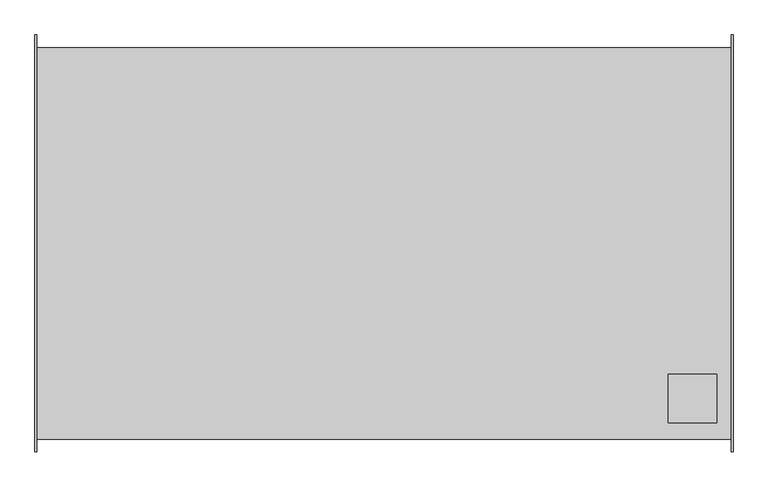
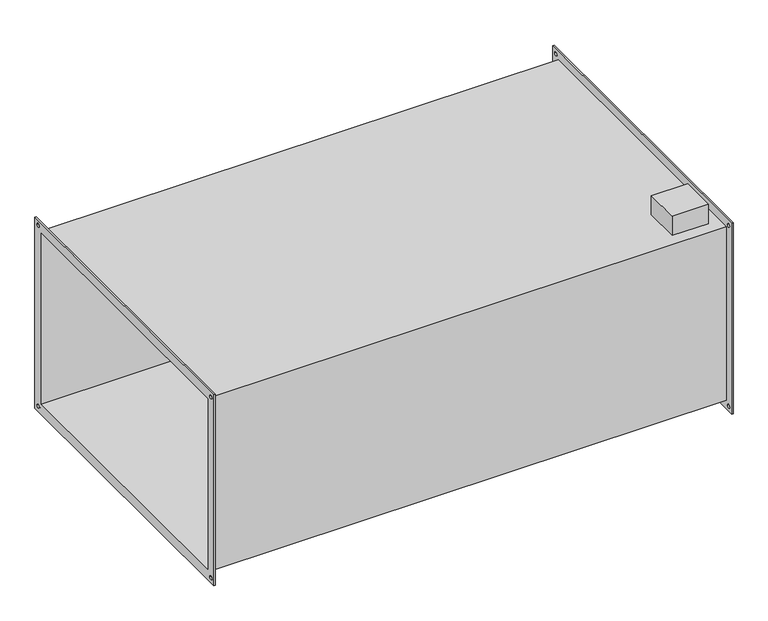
"""IFC4 building model written with IfcOpenShell, lengths in millimetres: proxy geometry."""

from ifc_helpers import new_model, si_unit, frame, origin, place, context, project, spatial, polyline, circle_curve, source, transform, mapped, element, save
from ifc_brep_helpers import plane_surface, revolved_surface, advanced_brep


def mechanical_equipment_e5620a89(model_context):
    return source(origin(), model_context, "Body", "AdvancedBrep", [
        advanced_brep(
        [(716.0, -404.0, 254.0), (-716.0, -404.0, 254.0), (-716.0, -404.0, -254.0), (716.0, -404.0, -254.0), (-716.0, 404.0, -254.0), (716.0, 404.0, -254.0), (-716.0, 404.0, 254.0), (716.0, 404.0, 254.0), (586.0, -270.0, 254.0), (686.0, -270.0, 254.0), (686.0, -370.0, 254.0), (586.0, -370.0, 254.0), (686.0, -270.0, 310.0), (586.0, -270.0, 310.0), (586.0, -370.0, 310.0), (686.0, -370.0, 310.0), (-720.0, -430.0, 280.0), (-720.0, 430.0, 280.0), (-720.0, 430.0, -280.0), (-720.0, -430.0, -280.0), (-720.0, -400.0, 250.0), (-720.0, -400.0, -250.0), (-720.0, 400.0, -250.0), (-720.0, 400.0, 250.0), (-720.0, -420.0, 265.0), (-720.0, -410.0, 265.0), (-720.0, -420.0, -265.0), (-720.0, -410.0, -265.0), (-720.0, 410.0, -265.0), (-720.0, 420.0, -265.0), (-720.0, 410.0, 265.0), (-720.0, 420.0, 265.0), (-716.0, -430.0, 280.0), (-716.0, -430.0, -280.0), (-716.0, 430.0, -280.0), (-716.0, 430.0, 280.0), (-716.0, -410.0, 265.0), (-716.0, -420.0, 265.0), (-716.0, -410.0, -265.0), (-716.0, -420.0, -265.0), (-716.0, 420.0, -265.0), (-716.0, 410.0, -265.0), (-716.0, 420.0, 265.0), (-716.0, 410.0, 265.0), (716.0, 430.0, 280.0), (716.0, 430.0, -280.0), (716.0, -430.0, -280.0), (716.0, -430.0, 280.0), (716.0, -420.0, 265.0), (716.0, -410.0, 265.0), (716.0, -420.0, -265.0), (716.0, -410.0, -265.0), (716.0, 410.0, -265.0), (716.0, 420.0, -265.0), (716.0, 410.0, 265.0), (716.0, 420.0, 265.0), (720.0, 430.0, 280.0), (720.0, -430.0, 280.0), (720.0, -430.0, -280.0), (720.0, 430.0, -280.0), (720.0, 400.0, 250.0), (720.0, 400.0, -250.0), (720.0, -400.0, -250.0), (720.0, -400.0, 250.0), (720.0, -410.0, 265.0), (720.0, -420.0, 265.0), (720.0, -410.0, -265.0), (720.0, -420.0, -265.0), (720.0, 420.0, -265.0), (720.0, 410.0, -265.0), (720.0, 420.0, 265.0), (720.0, 410.0, 265.0)],
        [
            (0, 1),
            (1, 2),
            (2, 3),
            (3, 0),
            (2, 4),
            (4, 5),
            (5, 3),
            (4, 6),
            (6, 7),
            (7, 5),
            (0, 7),
            (6, 1),
            (8, 9),
            (9, 10),
            (10, 11),
            (11, 8),
            (12, 13),
            (13, 14),
            (14, 15),
            (15, 12),
            (12, 9),
            (8, 13),
            (11, 14),
            (10, 15),
            (16, 17),
            (17, 18),
            (18, 19),
            (19, 16),
            (20, 21),
            (21, 22),
            (22, 23),
            (23, 20),
            (24, 25, circle_curve(frame((-720.0, -415.0, 265.0), z_axis=(1.0, 0.0, 0.0), x_axis=(0.0, 1.0, 0.0)), 5.0)),
            (25, 24, circle_curve(frame((-720.0, -415.0, 265.0), z_axis=(1.0, 0.0, 0.0), x_axis=(0.0, 1.0, 0.0)), 5.0)),
            (26, 27, circle_curve(frame((-720.0, -415.0, -265.0), z_axis=(1.0, 0.0, 0.0), x_axis=(0.0, 1.0, 0.0)), 5.0)),
            (27, 26, circle_curve(frame((-720.0, -415.0, -265.0), z_axis=(1.0, 0.0, 0.0), x_axis=(0.0, 1.0, 0.0)), 5.0)),
            (28, 29, circle_curve(frame((-720.0, 415.0, -265.0), z_axis=(1.0, 0.0, 0.0), x_axis=(0.0, 1.0, 0.0)), 5.0)),
            (29, 28, circle_curve(frame((-720.0, 415.0, -265.0), z_axis=(1.0, 0.0, 0.0), x_axis=(0.0, 1.0, 0.0)), 5.0)),
            (30, 31, circle_curve(frame((-720.0, 415.0, 265.0), z_axis=(1.0, 0.0, 0.0), x_axis=(0.0, 1.0, 0.0)), 5.0)),
            (31, 30, circle_curve(frame((-720.0, 415.0, 265.0), z_axis=(1.0, 0.0, 0.0), x_axis=(0.0, 1.0, 0.0)), 5.0)),
            (32, 33),
            (33, 34),
            (34, 35),
            (35, 32),
            (36, 37, circle_curve(frame((-716.0, -415.0, 265.0), z_axis=(-1.0, 0.0, 0.0), x_axis=(0.0, 1.0, 0.0)), 5.0)),
            (37, 36, circle_curve(frame((-716.0, -415.0, 265.0), z_axis=(-1.0, 0.0, 0.0), x_axis=(0.0, 1.0, 0.0)), 5.0)),
            (38, 39, circle_curve(frame((-716.0, -415.0, -265.0), z_axis=(-1.0, 0.0, 0.0), x_axis=(0.0, 1.0, 0.0)), 5.0)),
            (39, 38, circle_curve(frame((-716.0, -415.0, -265.0), z_axis=(-1.0, 0.0, 0.0), x_axis=(0.0, 1.0, 0.0)), 5.0)),
            (40, 41, circle_curve(frame((-716.0, 415.0, -265.0), z_axis=(-1.0, 0.0, 0.0), x_axis=(0.0, 1.0, 0.0)), 5.0)),
            (41, 40, circle_curve(frame((-716.0, 415.0, -265.0), z_axis=(-1.0, 0.0, 0.0), x_axis=(0.0, 1.0, 0.0)), 5.0)),
            (42, 43, circle_curve(frame((-716.0, 415.0, 265.0), z_axis=(-1.0, 0.0, 0.0), x_axis=(0.0, 1.0, 0.0)), 5.0)),
            (43, 42, circle_curve(frame((-716.0, 415.0, 265.0), z_axis=(-1.0, 0.0, 0.0), x_axis=(0.0, 1.0, 0.0)), 5.0)),
            (19, 33),
            (32, 16),
            (18, 34),
            (17, 35),
            (44, 45),
            (45, 46),
            (46, 47),
            (47, 44),
            (48, 49, circle_curve(frame((716.0, -415.0, 265.0), z_axis=(1.0, 0.0, 0.0), x_axis=(0.0, 1.0, 0.0)), 5.0)),
            (49, 48, circle_curve(frame((716.0, -415.0, 265.0), z_axis=(1.0, 0.0, 0.0), x_axis=(0.0, 1.0, 0.0)), 5.0)),
            (50, 51, circle_curve(frame((716.0, -415.0, -265.0), z_axis=(1.0, 0.0, 0.0), x_axis=(0.0, 1.0, 0.0)), 5.0)),
            (51, 50, circle_curve(frame((716.0, -415.0, -265.0), z_axis=(1.0, 0.0, 0.0), x_axis=(0.0, 1.0, 0.0)), 5.0)),
            (52, 53, circle_curve(frame((716.0, 415.0, -265.0), z_axis=(1.0, 0.0, 0.0), x_axis=(0.0, 1.0, 0.0)), 5.0)),
            (53, 52, circle_curve(frame((716.0, 415.0, -265.0), z_axis=(1.0, 0.0, 0.0), x_axis=(0.0, 1.0, 0.0)), 5.0)),
            (54, 55, circle_curve(frame((716.0, 415.0, 265.0), z_axis=(1.0, 0.0, 0.0), x_axis=(0.0, 1.0, 0.0)), 5.0)),
            (55, 54, circle_curve(frame((716.0, 415.0, 265.0), z_axis=(1.0, 0.0, 0.0), x_axis=(0.0, 1.0, 0.0)), 5.0)),
            (56, 57),
            (57, 58),
            (58, 59),
            (59, 56),
            (60, 61),
            (61, 62),
            (62, 63),
            (63, 60),
            (64, 65, circle_curve(frame((720.0, -415.0, 265.0), z_axis=(-1.0, 0.0, 0.0), x_axis=(0.0, 1.0, 0.0)), 5.0)),
            (65, 64, circle_curve(frame((720.0, -415.0, 265.0), z_axis=(-1.0, 0.0, 0.0), x_axis=(0.0, 1.0, 0.0)), 5.0)),
            (66, 67, circle_curve(frame((720.0, -415.0, -265.0), z_axis=(-1.0, 0.0, 0.0), x_axis=(0.0, 1.0, 0.0)), 5.0)),
            (67, 66, circle_curve(frame((720.0, -415.0, -265.0), z_axis=(-1.0, 0.0, 0.0), x_axis=(0.0, 1.0, 0.0)), 5.0)),
            (68, 69, circle_curve(frame((720.0, 415.0, -265.0), z_axis=(-1.0, 0.0, 0.0), x_axis=(0.0, 1.0, 0.0)), 5.0)),
            (69, 68, circle_curve(frame((720.0, 415.0, -265.0), z_axis=(-1.0, 0.0, 0.0), x_axis=(0.0, 1.0, 0.0)), 5.0)),
            (70, 71, circle_curve(frame((720.0, 415.0, 265.0), z_axis=(-1.0, 0.0, 0.0), x_axis=(0.0, 1.0, 0.0)), 5.0)),
            (71, 70, circle_curve(frame((720.0, 415.0, 265.0), z_axis=(-1.0, 0.0, 0.0), x_axis=(0.0, 1.0, 0.0)), 5.0)),
            (47, 57),
            (56, 44),
            (46, 58),
            (45, 59),
            (23, 60),
            (63, 20),
            (22, 61),
            (21, 62),
            (24, 37),
            (36, 25),
            (48, 65),
            (64, 49),
            (26, 39),
            (38, 27),
            (50, 67),
            (66, 51),
            (28, 41),
            (40, 29),
            (52, 69),
            (68, 53),
            (30, 43),
            (42, 31),
            (54, 71),
            (70, 55),
        ],
        [
            plane_surface(frame((716.0, -404.0, 254.0), z_axis=(0.0, -1.0, 0.0), x_axis=(-1.0, 0.0, 0.0))),
            plane_surface(frame((716.0, -404.0, -254.0), z_axis=(0.0, 0.0, -1.0), x_axis=(-1.0, 0.0, 0.0))),
            plane_surface(frame((716.0, 404.0, -254.0), z_axis=(0.0, 1.0, 0.0), x_axis=(-1.0, 0.0, 0.0))),
            plane_surface(frame((716.0, 404.0, 254.0), z_axis=(0.0, 0.0, 1.0), x_axis=(-1.0, 0.0, 0.0))),
            plane_surface(frame((586.0, -270.0, 310.0), z_axis=(0.0, 0.0, 1.0), x_axis=(-1.0, 0.0, 0.0))),
            plane_surface(frame((686.0, -270.0, 310.0), z_axis=(0.0, 1.0, 0.0), x_axis=(0.0, 0.0, -1.0))),
            plane_surface(frame((586.0, -270.0, 310.0), z_axis=(-1.0, 0.0, 0.0), x_axis=(0.0, 0.0, -1.0))),
            plane_surface(frame((586.0, -370.0, 310.0), z_axis=(0.0, -1.0, 0.0), x_axis=(0.0, 0.0, -1.0))),
            plane_surface(frame((686.0, -370.0, 310.0), z_axis=(1.0, 0.0, 0.0), x_axis=(0.0, 0.0, -1.0))),
            plane_surface(frame((-720.0, -430.0, 280.0), z_axis=(-1.0, 0.0, 0.0), x_axis=(0.0, 0.0, 1.0))),
            plane_surface(frame((-716.0, -430.0, 280.0), z_axis=(1.0, 0.0, 0.0), x_axis=(0.0, 0.0, -1.0))),
            plane_surface(frame((-716.0, -430.0, 280.0), z_axis=(0.0, -1.0, 0.0), x_axis=(-1.0, 0.0, 0.0))),
            plane_surface(frame((-716.0, -430.0, -280.0), z_axis=(0.0, 0.0, -1.0), x_axis=(-1.0, 0.0, 0.0))),
            plane_surface(frame((-716.0, 430.0, -280.0), z_axis=(0.0, 1.0, 0.0), x_axis=(-1.0, 0.0, 0.0))),
            plane_surface(frame((-716.0, 430.0, 280.0), z_axis=(0.0, 0.0, 1.0), x_axis=(-1.0, 0.0, 0.0))),
            plane_surface(frame((716.0, 400.0, -250.0), z_axis=(-1.0, 0.0, 0.0), x_axis=(0.0, 0.0, 1.0))),
            plane_surface(frame((720.0, 400.0, -250.0), z_axis=(1.0, 0.0, 0.0), x_axis=(0.0, 0.0, -1.0))),
            plane_surface(frame((720.0, 430.0, 280.0), z_axis=(0.0, 0.0, 1.0), x_axis=(-1.0, 0.0, 0.0))),
            plane_surface(frame((720.0, -430.0, 280.0), z_axis=(0.0, -1.0, 0.0), x_axis=(-1.0, 0.0, 0.0))),
            plane_surface(frame((720.0, -430.0, -280.0), z_axis=(0.0, 0.0, -1.0), x_axis=(-1.0, 0.0, 0.0))),
            plane_surface(frame((720.0, 430.0, -280.0), z_axis=(0.0, 1.0, 0.0), x_axis=(-1.0, 0.0, 0.0))),
            plane_surface(frame((-716.0, -400.0, 250.0), z_axis=(0.0, 0.0, -1.0), x_axis=(-1.0, 0.0, 0.0))),
            plane_surface(frame((-716.0, 400.0, 250.0), z_axis=(0.0, -1.0, 0.0), x_axis=(-1.0, 0.0, 0.0))),
            plane_surface(frame((-716.0, 400.0, -250.0), z_axis=(0.0, 0.0, 1.0), x_axis=(-1.0, 0.0, 0.0))),
            plane_surface(frame((-716.0, -400.0, -250.0), z_axis=(0.0, 1.0, 0.0), x_axis=(-1.0, 0.0, 0.0))),
            revolved_surface(polyline([(-716.0, -410.0, 265.0), (-720.0, -410.0, 265.0)]), (-720.0, -415.0, 265.0), (1.0, 0.0, 0.0)),
            revolved_surface(polyline([(720.0, -410.0, 265.0), (716.0, -410.0, 265.0)]), (-720.0, -415.0, 265.0), (1.0, 0.0, 0.0)),
            revolved_surface(polyline([(-716.0, -410.0, -265.0), (-720.0, -410.0, -265.0)]), (0.0, -415.0, -265.0), (1.0, 0.0, 0.0)),
            revolved_surface(polyline([(720.0, -410.0, -265.0), (716.0, -410.0, -265.0)]), (0.0, -415.0, -265.0), (1.0, 0.0, 0.0)),
            revolved_surface(polyline([(-716.0, 420.0, -265.0), (-720.0, 420.0, -265.0)]), (0.0, 415.0, -265.0), (1.0, 0.0, 0.0)),
            revolved_surface(polyline([(720.0, 420.0, -265.0), (716.0, 420.0, -265.0)]), (0.0, 415.0, -265.0), (1.0, 0.0, 0.0)),
            revolved_surface(polyline([(-716.0, 420.0, 265.0), (-720.0, 420.0, 265.0)]), (0.0, 415.0, 265.0), (1.0, 0.0, 0.0)),
            revolved_surface(polyline([(720.0, 420.0, 265.0), (716.0, 420.0, 265.0)]), (0.0, 415.0, 265.0), (1.0, 0.0, 0.0)),
        ],
        [
            (0, [[1, 2, 3, 4]]),
            (1, [[-3, 5, 6, 7]]),
            (2, [[-6, 8, 9, 10]]),
            (3, [[-1, 11, -9, 12], [13, 14, 15, 16]]),
            (4, [[17, 18, 19, 20]]),
            (5, [[-17, 21, -13, 22]]),
            (6, [[-18, -22, -16, 23]]),
            (7, [[-19, -23, -15, 24]]),
            (8, [[-20, -24, -14, -21]]),
            (9, [[25, 26, 27, 28], [29, 30, 31, 32], [33, 34], [35, 36], [37, 38], [39, 40]]),
            (10, [[41, 42, 43, 44], [-2, -12, -8, -5], [45, 46], [47, 48], [49, 50], [51, 52]]),
            (11, [[-28, 53, -41, 54]]),
            (12, [[-27, 55, -42, -53]]),
            (13, [[-26, 56, -43, -55]]),
            (14, [[-25, -54, -44, -56]]),
            (15, [[57, 58, 59, 60], [-4, -7, -10, -11], [61, 62], [63, 64], [65, 66], [67, 68]]),
            (16, [[69, 70, 71, 72], [73, 74, 75, 76], [77, 78], [79, 80], [81, 82], [83, 84]]),
            (17, [[-60, 85, -69, 86]]),
            (18, [[-59, 87, -70, -85]]),
            (19, [[-58, 88, -71, -87]]),
            (20, [[-57, -86, -72, -88]]),
            (21, [[-32, 89, -76, 90]]),
            (22, [[-31, 91, -73, -89]]),
            (23, [[-30, 92, -74, -91]]),
            (24, [[-29, -90, -75, -92]]),
            (25, [[93, -45, 94, -33]]),
            (26, [[95, -77, 96, -61]]),
            (25, [[-93, -34, -94, -46]]),
            (26, [[-95, -62, -96, -78]]),
            (27, [[97, -47, 98, -35]]),
            (28, [[99, -79, 100, -63]]),
            (27, [[-97, -36, -98, -48]]),
            (28, [[-99, -64, -100, -80]]),
            (29, [[101, -49, 102, -37]]),
            (30, [[103, -81, 104, -65]]),
            (29, [[-101, -38, -102, -50]]),
            (30, [[-103, -66, -104, -82]]),
            (31, [[105, -51, 106, -39]]),
            (32, [[107, -83, 108, -67]]),
            (31, [[-105, -40, -106, -52]]),
            (32, [[-107, -68, -108, -84]]),
        ],
    ),
    ])


if __name__ == "__main__":
    model = new_model("IFC4")
    model_context = context("Model", 3, world=origin())
    ifc_project = project(units=[si_unit("LENGTHUNIT", "METRE", prefix="MILLI")], contexts=[model_context])
    site = spatial("IfcSite", under=ifc_project)
    building = spatial("IfcBuilding", under=site)
    placement = place(None, origin())
    mechanical_equipment_shape = mechanical_equipment_e5620a89(model_context)
    element("IfcBuildingElementProxy", 1, Name="Mechanical Equipment", at=placement, inside=building, context=model_context, shape_type="MappedRepresentation", body=[
        mapped(mechanical_equipment_shape, transform((0.0, 0.0, 0.0), x_axis=(1.0, 0.0, 0.0), y_axis=(0.0, 1.0, 0.0), z_axis=(0.0, 0.0, 1.0))),
    ])
    save(model, "model.ifc")
